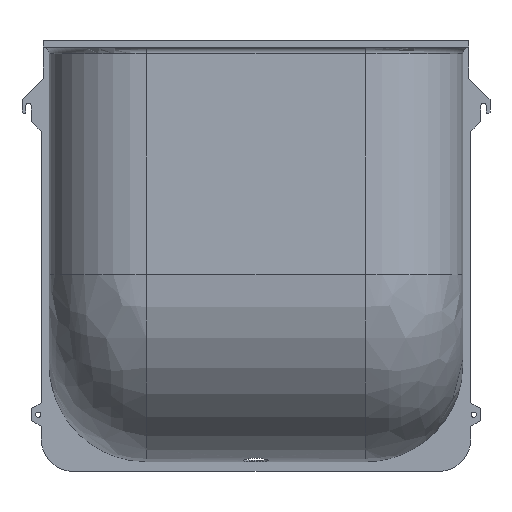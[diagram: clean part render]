
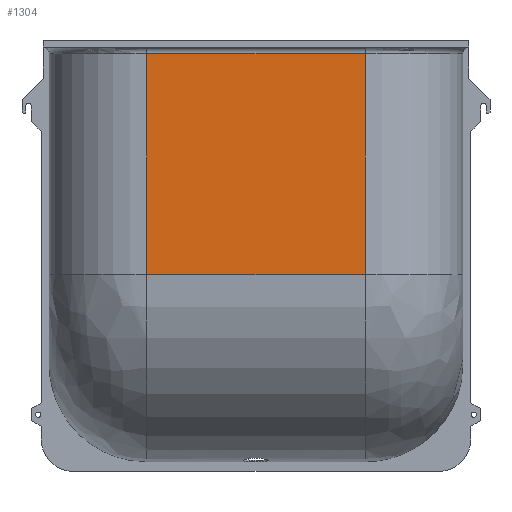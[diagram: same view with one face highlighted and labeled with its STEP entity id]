
A CAD part, top view. The second image highlights one B-rep face of the part: STEP entity #1304.
In plain terms, the highlighted planar face has unit normal (0, 0, 1).
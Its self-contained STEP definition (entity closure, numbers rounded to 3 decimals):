
#36=PLANE('',#1417);
#171=LINE('',#2193,#301);
#182=LINE('',#2234,#312);
#186=LINE('',#2293,#316);
#190=LINE('',#2344,#320);
#301=VECTOR('',#1626,673.);
#312=VECTOR('',#1661,680.);
#316=VECTOR('',#1679,673.);
#320=VECTOR('',#1687,680.);
#420=FACE_OUTER_BOUND('',#496,.T.);
#496=EDGE_LOOP('',(#1053,#1054,#1055,#1056));
#615=VERTEX_POINT('',#2177);
#619=VERTEX_POINT('',#2191);
#631=VERTEX_POINT('',#2233);
#635=VERTEX_POINT('',#2286);
#763=EDGE_CURVE('',#619,#615,#171,.T.);
#781=EDGE_CURVE('',#615,#631,#182,.T.);
#791=EDGE_CURVE('',#635,#631,#186,.T.);
#796=EDGE_CURVE('',#635,#619,#190,.T.);
#1053=ORIENTED_EDGE('',*,*,#763,.F.);
#1054=ORIENTED_EDGE('',*,*,#796,.F.);
#1055=ORIENTED_EDGE('',*,*,#791,.T.);
#1056=ORIENTED_EDGE('',*,*,#781,.F.);
#1304=ADVANCED_FACE('',(#420),#36,.T.);
#1417=AXIS2_PLACEMENT_3D('',#2345,#1688,#1689);
#1626=DIRECTION('',(1.,0.,0.));
#1661=DIRECTION('',(0.,-1.,0.));
#1679=DIRECTION('',(1.,0.,0.));
#1687=DIRECTION('',(0.,1.,0.));
#1688=DIRECTION('center_axis',(0.,0.,1.));
#1689=DIRECTION('ref_axis',(0.,-1.,0.));
#2177=CARTESIAN_POINT('',(336.5,-40.,575.));
#2191=CARTESIAN_POINT('',(-336.5,-40.,575.));
#2193=CARTESIAN_POINT('',(0.,-40.,575.));
#2233=CARTESIAN_POINT('',(336.5,-720.,575.));
#2234=CARTESIAN_POINT('',(336.5,-280.561,575.));
#2286=CARTESIAN_POINT('',(-336.5,-720.,575.));
#2293=CARTESIAN_POINT('',(0.,-720.,575.));
#2344=CARTESIAN_POINT('',(-336.5,-280.561,575.));
#2345=CARTESIAN_POINT('Origin',(0.,0.,575.));
